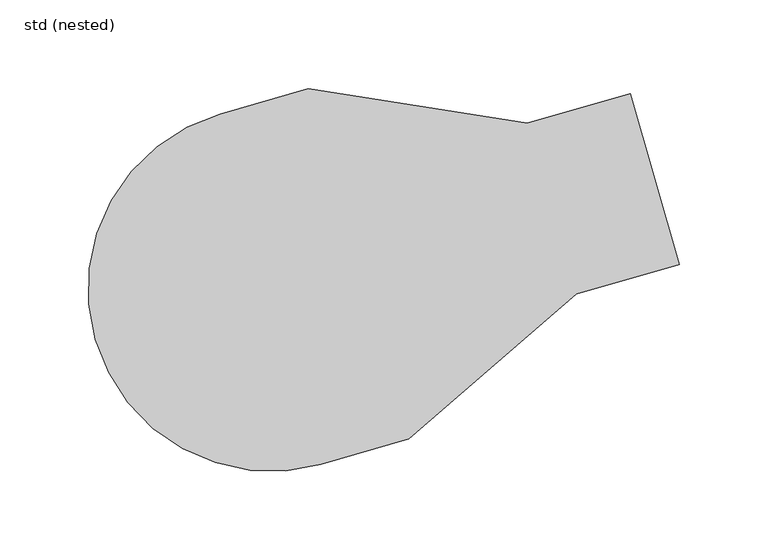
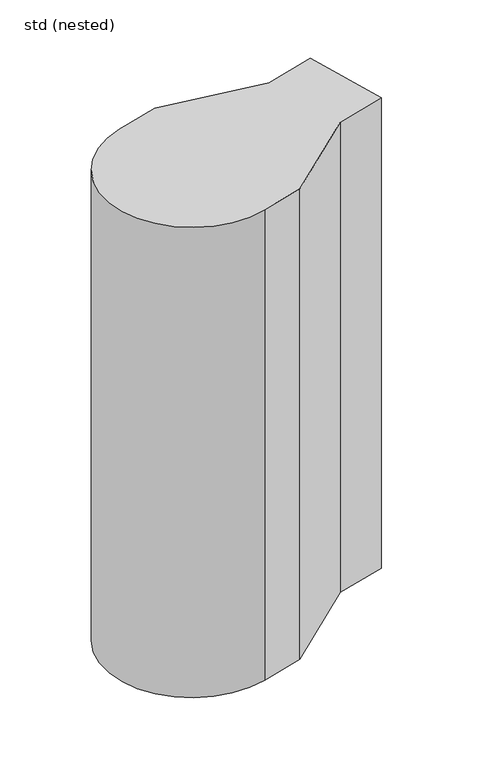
"""IFC4 building model written with IfcOpenShell, lengths in millimetres: unitary equipment geometry, ZZZ_do not use_ME_WPB_pump muliflex_ACO -SH : std (nested)."""

from ifc_helpers import new_model, si_unit, point, frame, frame_2d, origin, place, context, project, spatial, polyline, circle_curve, trimmed, segment, composite_curve, outline, extrude, source, transform, mapped, element, save


def std_nested_62343fa4(model_context):
    return source(origin(), model_context, "Body", "SweptSolid", [
        extrude(outline(composite_curve([segment(polyline([(-63.3897924, -37.2845549), (-14.1251305, -23.1581404), (109.2087177, -42.4084489), (166.8844195, -25.8702075), (194.4481551, -121.9963771), (136.7724533, -138.5346185), (42.3805274, -220.2167881), (-6.8841345, -234.3432025)]), True, "CONTINUOUS"), segment(trimmed(circle_curve(frame_2d((-35.1369635, -135.8138787)), 102.5), [point((-6.8841345, -234.3432025))], [point((-63.3897924, -37.2845549))], False, "CARTESIAN"), True, "CONTINUOUS")], self_intersect=False)), frame((0.0, 0.0, 43.0), z_axis=(0.0, 0.0, 1.0), x_axis=(1.0, 0.0, 0.0)), (0.0, 0.0, 1.0), 582.0),
    ])


if __name__ == "__main__":
    model = new_model("IFC4")
    model_context = context("Model", 3, world=origin())
    ifc_project = project(units=[si_unit("LENGTHUNIT", "METRE", prefix="MILLI")], contexts=[model_context])
    site = spatial("IfcSite", under=ifc_project)
    building = spatial("IfcBuilding", under=site)
    placement = place(None, origin())
    std_nested_shape = std_nested_62343fa4(model_context)
    element("IfcUnitaryEquipment", 1, ObjectType="ZZZ_do not use_ME_WPB_pump muliflex_ACO -SH : std (nested)", at=placement, inside=building, context=model_context, shape_type="MappedRepresentation", body=[
        mapped(std_nested_shape, transform((0.0, 0.0, 0.0), x_axis=(1.0, 0.0, 0.0), y_axis=(0.0, 1.0, 0.0), z_axis=(0.0, 0.0, 1.0))),
    ])
    save(model, "model.ifc")
